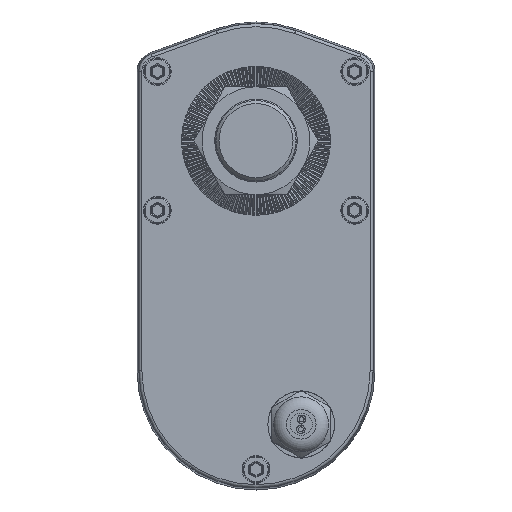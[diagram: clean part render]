
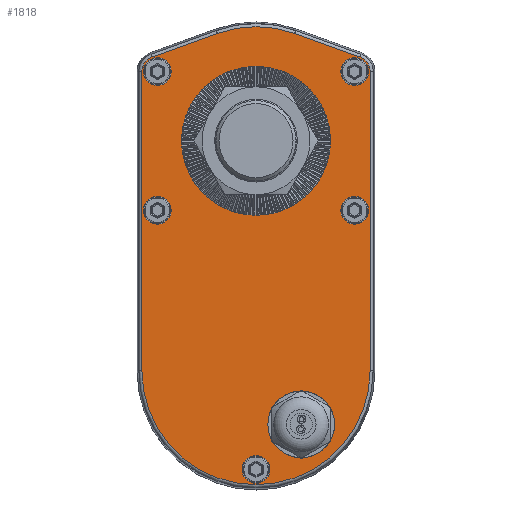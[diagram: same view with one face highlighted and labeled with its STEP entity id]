
A CAD part, top view. The second image highlights one B-rep face of the part: STEP entity #1818.
In plain terms, the highlighted planar face has unit normal (0, 0, 1).
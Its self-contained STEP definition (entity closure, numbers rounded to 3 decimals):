
#71 = DIRECTION ( 'NONE',  ( -1., 0., 0. ) ) ;
#342 = DIRECTION ( 'NONE',  ( 0., 0., 1. ) ) ;
#427 = CARTESIAN_POINT ( 'NONE',  ( 32., -22.54, 40. ) ) ;
#455 = EDGE_CURVE ( 'NONE', #8337, #8337, #26927, .T. ) ;
#548 = FACE_BOUND ( 'NONE', #20680, .T. ) ;
#813 = VERTEX_POINT ( 'NONE', #7580 ) ;
#826 = DIRECTION ( 'NONE',  ( -1., 0., 0. ) ) ;
#997 = AXIS2_PLACEMENT_3D ( 'NONE', #12507, #14332, #22674 ) ;
#1041 = ORIENTED_EDGE ( 'NONE', *, *, #16237, .F. ) ;
#1131 = CARTESIAN_POINT ( 'NONE',  ( 37.012, -74.495, 40. ) ) ;
#1818 = ADVANCED_FACE ( 'NONE', ( #22227, #6053, #11634, #548, #16671, #10997, #5375, #27190 ), #25182, .F. ) ;
#1926 = DIRECTION ( 'NONE',  ( -1., 0., 0. ) ) ;
#2255 = EDGE_CURVE ( 'NONE', #13279, #13279, #17000, .T. ) ;
#2476 = ORIENTED_EDGE ( 'NONE', *, *, #5424, .F. ) ;
#2819 = CARTESIAN_POINT ( 'NONE',  ( -12.586, 34.812, 40. ) ) ;
#3028 = VERTEX_POINT ( 'NONE', #5624 ) ;
#3035 = CIRCLE ( 'NONE', #14380, 37.017 ) ;
#3062 = VERTEX_POINT ( 'NONE', #2819 ) ;
#3350 = LINE ( 'NONE', #9500, #13933 ) ;
#3569 = DIRECTION ( 'NONE',  ( -1., 0., 0. ) ) ;
#3616 = VERTEX_POINT ( 'NONE', #23438 ) ;
#3660 = LINE ( 'NONE', #16879, #25504 ) ;
#3845 = DIRECTION ( 'NONE',  ( 0., 0., 1. ) ) ;
#4263 = CARTESIAN_POINT ( 'NONE',  ( 0., -74.495, 40. ) ) ;
#4860 = CARTESIAN_POINT ( 'NONE',  ( 0., 0., 40. ) ) ;
#5375 = FACE_OUTER_BOUND ( 'NONE', #27124, .T. ) ;
#5424 = EDGE_CURVE ( 'NONE', #17574, #17574, #21763, .T. ) ;
#5624 = CARTESIAN_POINT ( 'NONE',  ( 4.5, -106.54, 40. ) ) ;
#5685 = ORIENTED_EDGE ( 'NONE', *, *, #12071, .T. ) ;
#5954 = EDGE_CURVE ( 'NONE', #813, #813, #16821, .T. ) ;
#6053 = FACE_BOUND ( 'NONE', #20331, .T. ) ;
#6263 = CARTESIAN_POINT ( 'NONE',  ( 0., 0., 40. ) ) ;
#6375 = DIRECTION ( 'NONE',  ( -1., 0., 0. ) ) ;
#6387 = DIRECTION ( 'NONE',  ( 0., 0., 1. ) ) ;
#6577 = DIRECTION ( 'NONE',  ( -0.94, -0.34, 0. ) ) ;
#6599 = AXIS2_PLACEMENT_3D ( 'NONE', #19053, #6387, #21156 ) ;
#6805 = EDGE_CURVE ( 'NONE', #13384, #17469, #23368, .T. ) ;
#7171 = ORIENTED_EDGE ( 'NONE', *, *, #11277, .F. ) ;
#7247 = CARTESIAN_POINT ( 'NONE',  ( -32., -22.54, 40. ) ) ;
#7580 = CARTESIAN_POINT ( 'NONE',  ( -24.1, 0., 40. ) ) ;
#7656 = ORIENTED_EDGE ( 'NONE', *, *, #455, .F. ) ;
#7777 = VERTEX_POINT ( 'NONE', #12601 ) ;
#8312 = AXIS2_PLACEMENT_3D ( 'NONE', #24977, #12274, #27078 ) ;
#8337 = VERTEX_POINT ( 'NONE', #26418 ) ;
#8386 = CARTESIAN_POINT ( 'NONE',  ( -33.701, 27.179, 40. ) ) ;
#8387 = DIRECTION ( 'NONE',  ( -1., 0., 0. ) ) ;
#8459 = CARTESIAN_POINT ( 'NONE',  ( -31.995, 22.46, 40. ) ) ;
#8694 = EDGE_LOOP ( 'NONE', ( #2476 ) ) ;
#9280 = ORIENTED_EDGE ( 'NONE', *, *, #12272, .T. ) ;
#9316 = VERTEX_POINT ( 'NONE', #26683 ) ;
#9333 = ORIENTED_EDGE ( 'NONE', *, *, #11550, .T. ) ;
#9500 = CARTESIAN_POINT ( 'NONE',  ( 12.586, 34.812, 40. ) ) ;
#9760 = ORIENTED_EDGE ( 'NONE', *, *, #10210, .F. ) ;
#9978 = CARTESIAN_POINT ( 'NONE',  ( 27.5, 22.46, 40. ) ) ;
#10210 = EDGE_CURVE ( 'NONE', #9316, #9316, #14302, .T. ) ;
#10997 = FACE_BOUND ( 'NONE', #14032, .T. ) ;
#11048 = EDGE_CURVE ( 'NONE', #7777, #16102, #12971, .T. ) ;
#11277 = EDGE_CURVE ( 'NONE', #3028, #3028, #13959, .T. ) ;
#11416 = CARTESIAN_POINT ( 'NONE',  ( 0., -106.54, 40. ) ) ;
#11550 = EDGE_CURVE ( 'NONE', #3616, #3062, #3035, .T. ) ;
#11634 = FACE_BOUND ( 'NONE', #27072, .T. ) ;
#11717 = AXIS2_PLACEMENT_3D ( 'NONE', #8459, #21232, #826 ) ;
#11755 = EDGE_CURVE ( 'NONE', #19575, #3616, #3350, .T. ) ;
#12071 = EDGE_CURVE ( 'NONE', #16102, #15840, #3660, .T. ) ;
#12272 = EDGE_CURVE ( 'NONE', #15840, #19575, #16592, .T. ) ;
#12274 = DIRECTION ( 'NONE',  ( 0., 0., 1. ) ) ;
#12290 = CARTESIAN_POINT ( 'NONE',  ( -37.012, -74.495, 40. ) ) ;
#12507 = CARTESIAN_POINT ( 'NONE',  ( 0., 0., 40. ) ) ;
#12601 = CARTESIAN_POINT ( 'NONE',  ( -37.012, -74.495, 40. ) ) ;
#12689 = AXIS2_PLACEMENT_3D ( 'NONE', #24494, #24416, #24355 ) ;
#12971 = CIRCLE ( 'NONE', #13119, 37.012 ) ;
#13044 = EDGE_LOOP ( 'NONE', ( #9760 ) ) ;
#13119 = AXIS2_PLACEMENT_3D ( 'NONE', #4263, #19044, #6375 ) ;
#13126 = ORIENTED_EDGE ( 'NONE', *, *, #2255, .F. ) ;
#13279 = VERTEX_POINT ( 'NONE', #22242 ) ;
#13384 = VERTEX_POINT ( 'NONE', #8386 ) ;
#13574 = DIRECTION ( 'NONE',  ( 1., 0., 0. ) ) ;
#13617 = ORIENTED_EDGE ( 'NONE', *, *, #5954, .F. ) ;
#13933 = VECTOR ( 'NONE', #22116, 1000. ) ;
#13959 = CIRCLE ( 'NONE', #16863, 4.5 ) ;
#13976 = DIRECTION ( 'NONE',  ( 0., 1., 0. ) ) ;
#14032 = EDGE_LOOP ( 'NONE', ( #1041 ) ) ;
#14302 = CIRCLE ( 'NONE', #8312, 7.875 ) ;
#14332 = DIRECTION ( 'NONE',  ( 0., 0., -1. ) ) ;
#14380 = AXIS2_PLACEMENT_3D ( 'NONE', #6263, #21022, #8387 ) ;
#14549 = DIRECTION ( 'NONE',  ( 0., 0., 1. ) ) ;
#15040 = CARTESIAN_POINT ( 'NONE',  ( 33.701, 27.179, 40. ) ) ;
#15840 = VERTEX_POINT ( 'NONE', #25367 ) ;
#16102 = VERTEX_POINT ( 'NONE', #1131 ) ;
#16237 = EDGE_CURVE ( 'NONE', #17250, #17250, #26937, .T. ) ;
#16527 = AXIS2_PLACEMENT_3D ( 'NONE', #427, #342, #71 ) ;
#16537 = ORIENTED_EDGE ( 'NONE', *, *, #6805, .T. ) ;
#16592 = CIRCLE ( 'NONE', #6599, 5.017 ) ;
#16671 = FACE_BOUND ( 'NONE', #8694, .T. ) ;
#16821 = CIRCLE ( 'NONE', #21965, 24.1 ) ;
#16863 = AXIS2_PLACEMENT_3D ( 'NONE', #11416, #26222, #13574 ) ;
#16879 = CARTESIAN_POINT ( 'NONE',  ( 37.012, 22.46, 40. ) ) ;
#17000 = CIRCLE ( 'NONE', #24154, 4.5 ) ;
#17250 = VERTEX_POINT ( 'NONE', #9978 ) ;
#17469 = VERTEX_POINT ( 'NONE', #26804 ) ;
#17574 = VERTEX_POINT ( 'NONE', #18112 ) ;
#17762 = ORIENTED_EDGE ( 'NONE', *, *, #21484, .T. ) ;
#18112 = CARTESIAN_POINT ( 'NONE',  ( 27.5, -22.54, 40. ) ) ;
#18822 = DIRECTION ( 'NONE',  ( 0., 0., 1. ) ) ;
#19044 = DIRECTION ( 'NONE',  ( 0., 0., 1. ) ) ;
#19053 = CARTESIAN_POINT ( 'NONE',  ( 31.995, 22.46, 40. ) ) ;
#19138 = LINE ( 'NONE', #12290, #24740 ) ;
#19575 = VERTEX_POINT ( 'NONE', #15040 ) ;
#20298 = ORIENTED_EDGE ( 'NONE', *, *, #22937, .T. ) ;
#20331 = EDGE_LOOP ( 'NONE', ( #7656 ) ) ;
#20386 = EDGE_LOOP ( 'NONE', ( #13617 ) ) ;
#20680 = EDGE_LOOP ( 'NONE', ( #7171 ) ) ;
#20830 = LINE ( 'NONE', #21340, #26451 ) ;
#21022 = DIRECTION ( 'NONE',  ( 0., 0., 1. ) ) ;
#21156 = DIRECTION ( 'NONE',  ( -1., 0., 0. ) ) ;
#21232 = DIRECTION ( 'NONE',  ( 0., 0., 1. ) ) ;
#21340 = CARTESIAN_POINT ( 'NONE',  ( -33.701, 27.179, 40. ) ) ;
#21484 = EDGE_CURVE ( 'NONE', #3062, #13384, #20830, .T. ) ;
#21763 = CIRCLE ( 'NONE', #16527, 4.5 ) ;
#21965 = AXIS2_PLACEMENT_3D ( 'NONE', #4860, #3845, #3569 ) ;
#22116 = DIRECTION ( 'NONE',  ( -0.94, 0.34, 0. ) ) ;
#22227 = FACE_BOUND ( 'NONE', #20386, .T. ) ;
#22242 = CARTESIAN_POINT ( 'NONE',  ( -27.5, -22.54, 40. ) ) ;
#22674 = DIRECTION ( 'NONE',  ( -1., 0., 0. ) ) ;
#22853 = ORIENTED_EDGE ( 'NONE', *, *, #11755, .T. ) ;
#22937 = EDGE_CURVE ( 'NONE', #17469, #7777, #19138, .T. ) ;
#23138 = DIRECTION ( 'NONE',  ( 1., 0., 0. ) ) ;
#23339 = AXIS2_PLACEMENT_3D ( 'NONE', #27159, #14549, #1926 ) ;
#23368 = CIRCLE ( 'NONE', #11717, 5.017 ) ;
#23438 = CARTESIAN_POINT ( 'NONE',  ( 12.586, 34.812, 40. ) ) ;
#24154 = AXIS2_PLACEMENT_3D ( 'NONE', #7247, #18822, #23138 ) ;
#24355 = DIRECTION ( 'NONE',  ( 1., 0., 0. ) ) ;
#24416 = DIRECTION ( 'NONE',  ( 0., 0., 1. ) ) ;
#24494 = CARTESIAN_POINT ( 'NONE',  ( -32., 22.46, 40. ) ) ;
#24740 = VECTOR ( 'NONE', #27095, 1000. ) ;
#24977 = CARTESIAN_POINT ( 'NONE',  ( 14.656, -91.966, 40. ) ) ;
#25182 = PLANE ( 'NONE',  #997 ) ;
#25367 = CARTESIAN_POINT ( 'NONE',  ( 37.012, 22.46, 40. ) ) ;
#25504 = VECTOR ( 'NONE', #13976, 1000. ) ;
#26222 = DIRECTION ( 'NONE',  ( 0., 0., 1. ) ) ;
#26290 = ORIENTED_EDGE ( 'NONE', *, *, #11048, .T. ) ;
#26418 = CARTESIAN_POINT ( 'NONE',  ( -27.5, 22.46, 40. ) ) ;
#26451 = VECTOR ( 'NONE', #6577, 1000. ) ;
#26683 = CARTESIAN_POINT ( 'NONE',  ( 6.781, -91.966, 40. ) ) ;
#26804 = CARTESIAN_POINT ( 'NONE',  ( -37.012, 22.46, 40. ) ) ;
#26927 = CIRCLE ( 'NONE', #12689, 4.5 ) ;
#26937 = CIRCLE ( 'NONE', #23339, 4.5 ) ;
#27072 = EDGE_LOOP ( 'NONE', ( #13126 ) ) ;
#27078 = DIRECTION ( 'NONE',  ( -1., 0., 0. ) ) ;
#27095 = DIRECTION ( 'NONE',  ( 0., -1., 0. ) ) ;
#27124 = EDGE_LOOP ( 'NONE', ( #20298, #26290, #5685, #9280, #22853, #9333, #17762, #16537 ) ) ;
#27159 = CARTESIAN_POINT ( 'NONE',  ( 32., 22.46, 40. ) ) ;
#27190 = FACE_BOUND ( 'NONE', #13044, .T. ) ;
